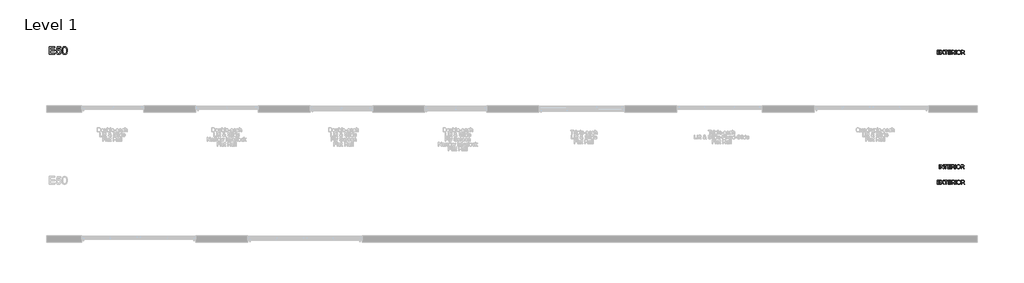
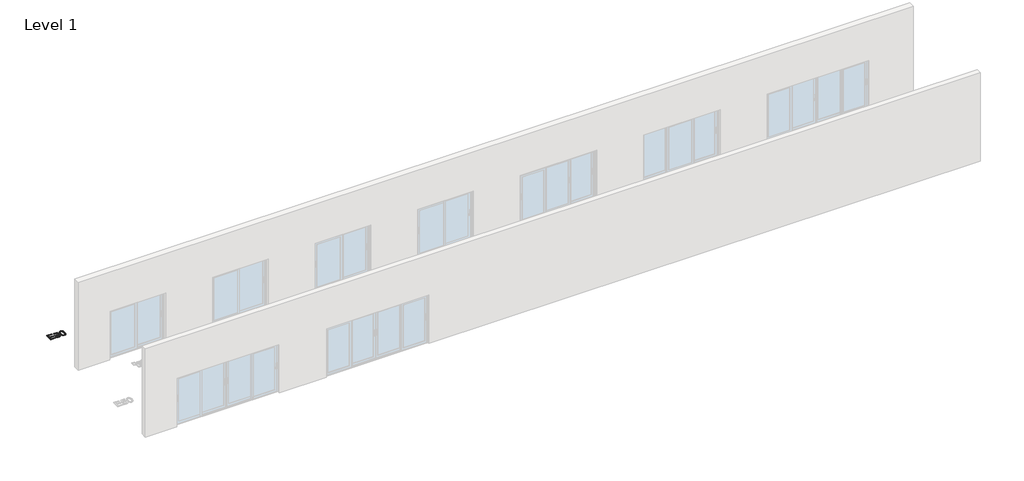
# One storey, part 11 of 11: 4 proxies.
"""IFC4 building model written with IfcOpenShell, lengths in millimetres."""

from ifc_helpers import new_model, si_unit, origin, origin_with_axes, place, context, project, spatial, polyline, outline, extrude, element, save

model = new_model("IFC4")

# Units and contexts
model_context = context("Model", 3, world=origin())
ifc_project = project(units=[si_unit("LENGTHUNIT", "METRE", prefix="MILLI")], contexts=[model_context])

# Site, building, storey
site = spatial("IfcSite", under=ifc_project)
building = spatial("IfcBuilding", under=site)
storey = spatial("IfcBuildingStorey", under=building, Name="Level 1", Elevation=0.0)

# Proxies
placement = place(None, origin())
element("IfcBuildingElementProxy", 1, Name="150mm Arial", ObjectType="150mm Arial", at=placement, inside=storey, context=model_context, shape_type="SweptSolid", body=[
    extrude(outline(polyline([(26115.5972472, 2081.2868462), (26115.5972472, 2231.9713114), (26223.9017066, 2231.9713114), (26223.9017066, 2213.1357532), (26134.4328053, 2213.1357532), (26134.4328053, 2168.4013026), (26219.192817, 2168.4013026), (26219.192817, 2149.5657445), (26134.4328053, 2149.5657445), (26134.4328053, 2100.1224043), (26226.2561513, 2100.1224043), (26226.2561513, 2081.2868462), (26115.5972472, 2081.2868462)])), origin_with_axes(), (0.0, 0.0, 1.0), 10.0),
    extrude(outline(polyline([(26238.0283752, 2081.2868462), (26296.1169422, 2163.3981075), (26247.4461543, 2231.9713114), (26270.0341088, 2231.9713114), (26297.4413174, 2193.3804901), (26306.6751555, 2178.3341165), (26317.4908861, 2193.6380075), (26344.6037892, 2231.9713114), (26367.5228375, 2231.9713114), (26318.8520495, 2163.1773783), (26376.9406166, 2081.2868462), (26354.3526621, 2081.2868462), (26315.6514762, 2135.8805342), (26307.5948605, 2147.2112997), (26298.7289044, 2134.7768883), (26260.9474235, 2081.2868462), (26238.0283752, 2081.2868462)])), origin_with_axes(), (0.0, 0.0, 1.0), 10.0),
    extrude(outline(polyline([(26433.447291, 2081.2868462), (26433.447291, 2213.1357532), (26384.0039509, 2213.1357532), (26384.0039509, 2231.9713114), (26501.7261893, 2231.9713114), (26501.7261893, 2213.1357532), (26452.2828492, 2213.1357532), (26452.2828492, 2081.2868462), (26433.447291, 2081.2868462)])), origin_with_axes(), (0.0, 0.0, 1.0), 10.0),
    extrude(outline(polyline([(26522.9161922, 2081.2868462), (26522.9161922, 2231.9713114), (26631.2206516, 2231.9713114), (26631.2206516, 2213.1357532), (26541.7517504, 2213.1357532), (26541.7517504, 2168.4013026), (26626.5117621, 2168.4013026), (26626.5117621, 2149.5657445), (26541.7517504, 2149.5657445), (26541.7517504, 2100.1224043), (26633.5750964, 2100.1224043), (26633.5750964, 2081.2868462), (26522.9161922, 2081.2868462)])), origin_with_axes(), (0.0, 0.0, 1.0), 10.0),
    extrude(outline(polyline([(26661.8284336, 2081.2868462), (26661.8284336, 2231.9713114), (26726.7596058, 2231.9713114), (26756.9075353, 2227.9062153), (26766.1873586, 2222.2776208), (26773.3886487, 2213.5220293), (26778.0101662, 2202.6649119), (26779.5506721, 2190.7317397), (26776.9984907, 2175.8877012), (26769.3419467, 2163.5820485), (26756.3511138, 2154.5597425), (26737.7960656, 2149.5657445), (26748.5014317, 2141.5091288), (26763.7685345, 2122.1217476), (26788.8948748, 2081.2868462), (26767.005896, 2081.2868462), (26747.3977857, 2112.5200275), (26733.2343289, 2133.1949957), (26723.2831209, 2142.9622626), (26714.3251943, 2146.5491121), (26703.3990991, 2147.2112997), (26680.6639918, 2147.2112997), (26680.6639918, 2081.2868462), (26661.8284336, 2081.2868462)]), holes=[polyline([(26680.6639918, 2166.0468578), (26722.8232684, 2166.0468578), (26744.325971, 2168.7140023), (26756.5396533, 2177.2488646), (26760.7151139, 2190.0327639), (26758.7239526, 2199.2206168), (26752.7504687, 2206.6242419), (26742.4727655, 2211.5078754), (26727.5689462, 2213.1357532), (26680.6639918, 2213.1357532), (26680.6639918, 2166.0468578)])]), origin_with_axes(), (0.0, 0.0, 1.0), 10.0),
    extrude(outline(polyline([(26814.8673436, 2081.2868462), (26814.8673436, 2231.9713114), (26833.7029018, 2231.9713114), (26833.7029018, 2081.2868462), (26814.8673436, 2081.2868462)])), origin_with_axes(), (0.0, 0.0, 1.0), 10.0),
    extrude(outline(polyline([(26864.3106838, 2154.642516), (26869.332273, 2187.9634277), (26875.6092595, 2201.5819593), (26884.3970407, 2213.1725414), (26907.3988625, 2229.0374525), (26936.2316138, 2234.3257562), (26955.996074, 2231.8425527), (26973.7187891, 2224.3929423), (26988.4340689, 2212.5011568), (26999.1762232, 2196.691428), (27005.7429168, 2177.7271112), (27007.9318147, 2156.3715614), (27005.6279537, 2134.730903), (26998.7163707, 2115.4998717), (26987.5787433, 2099.6625518), (26972.5967491, 2088.2030277), (26955.0257853, 2081.250058), (26936.1212492, 2078.9324014), (26916.0532864, 2081.4937798), (26898.2294037, 2089.177915), (26883.5509121, 2101.2904296), (26872.9191225, 2117.1369466), (26866.4627934, 2135.370098), (26864.3106838, 2154.642516)]), holes=[polyline([(26883.1462419, 2154.458575), (26886.9124339, 2130.8865362), (26898.2110096, 2112.9246977), (26915.1933622, 2101.5571441), (26936.0108846, 2097.7679595), (26957.1319097, 2101.5939323), (26974.1418534, 2113.0718505), (26985.3576558, 2131.5855119), (26989.0962565, 2156.5187142), (26987.4959699, 2173.1929656), (26982.6951098, 2187.6047428), (26974.8178366, 2199.3907622), (26963.9883104, 2208.1877404), (26950.923901, 2213.6645836), (26936.3419784, 2215.490198), (26916.0808775, 2211.9723264), (26898.8548031, 2201.4187117), (26887.0733822, 2182.6429344), (26883.1462419, 2154.458575)])]), origin_with_axes(), (0.0, 0.0, 1.0), 10.0),
    extrude(outline(polyline([(27033.8307072, 2081.2868462), (27033.8307072, 2231.9713114), (27098.7618793, 2231.9713114), (27128.9098088, 2227.9062153), (27138.1896321, 2222.2776208), (27145.3909222, 2213.5220293), (27150.0124398, 2202.6649119), (27151.5529456, 2190.7317397), (27149.0007643, 2175.8877012), (27141.3442202, 2163.5820485), (27128.3533873, 2154.5597425), (27109.7983392, 2149.5657445), (27120.5037052, 2141.5091288), (27135.770808, 2122.1217476), (27160.8971483, 2081.2868462), (27139.0081696, 2081.2868462), (27119.4000592, 2112.5200275), (27105.2366024, 2133.1949957), (27095.2853944, 2142.9622626), (27086.3274679, 2146.5491121), (27075.4013726, 2147.2112997), (27052.6662653, 2147.2112997), (27052.6662653, 2081.2868462), (27033.8307072, 2081.2868462)]), holes=[polyline([(27052.6662653, 2166.0468578), (27094.825542, 2166.0468578), (27116.3282446, 2168.7140023), (27128.5419268, 2177.2488646), (27132.7173875, 2190.0327639), (27130.7262262, 2199.2206168), (27124.7527423, 2206.6242419), (27114.475039, 2211.5078754), (27099.5712197, 2213.1357532), (27052.6662653, 2213.1357532), (27052.6662653, 2166.0468578)])]), origin_with_axes(), (0.0, 0.0, 1.0), 10.0),
])
element("IfcBuildingElementProxy", 2, Name="150mm Arial", ObjectType="150mm Arial", at=placement, inside=storey, context=model_context, shape_type="SweptSolid", body=[
    extrude(outline(polyline([(26177.951692, -2318.7131538), (26177.951692, -2168.0286886), (26196.7872501, -2168.0286886), (26196.7872501, -2318.7131538), (26177.951692, -2318.7131538)])), origin_with_axes(), (0.0, 0.0, 1.0), 10.0),
    extrude(outline(polyline([(26234.4583664, -2318.7131538), (26234.4583664, -2168.0286886), (26254.6182998, -2168.0286886), (26333.3450467, -2287.4063961), (26333.3450467, -2168.0286886), (26352.1806049, -2168.0286886), (26352.1806049, -2318.7131538), (26332.0206715, -2318.7131538), (26253.2939246, -2199.2986582), (26253.2939246, -2318.7131538), (26234.4583664, -2318.7131538)])), origin_with_axes(), (0.0, 0.0, 1.0), 10.0),
    extrude(outline(polyline([(26422.8139479, -2318.7131538), (26422.8139479, -2186.8642468), (26373.3706078, -2186.8642468), (26373.3706078, -2168.0286886), (26491.0928463, -2168.0286886), (26491.0928463, -2186.8642468), (26441.6495061, -2186.8642468), (26441.6495061, -2318.7131538), (26422.8139479, -2318.7131538)])), origin_with_axes(), (0.0, 0.0, 1.0), 10.0),
    extrude(outline(polyline([(26512.2828492, -2318.7131538), (26512.2828492, -2168.0286886), (26620.5873086, -2168.0286886), (26620.5873086, -2186.8642468), (26531.1184073, -2186.8642468), (26531.1184073, -2231.5986974), (26615.878419, -2231.5986974), (26615.878419, -2250.4342555), (26531.1184073, -2250.4342555), (26531.1184073, -2299.8775957), (26622.9417533, -2299.8775957), (26622.9417533, -2318.7131538), (26512.2828492, -2318.7131538)])), origin_with_axes(), (0.0, 0.0, 1.0), 10.0),
    extrude(outline(polyline([(26651.1950906, -2318.7131538), (26651.1950906, -2168.0286886), (26716.1262627, -2168.0286886), (26746.2741922, -2172.0937847), (26755.5540155, -2177.7223792), (26762.7553056, -2186.4779707), (26767.3768232, -2197.3350881), (26768.917329, -2209.2682603), (26766.3651477, -2224.1122988), (26758.7086036, -2236.4179515), (26745.7177707, -2245.4402575), (26727.1627226, -2250.4342555), (26737.8680886, -2258.4908712), (26753.1351914, -2277.8782524), (26778.2615317, -2318.7131538), (26756.372553, -2318.7131538), (26736.7644426, -2287.4799725), (26722.6009858, -2266.8050043), (26712.6497778, -2257.0377374), (26703.6918513, -2253.4508879), (26692.765756, -2252.7887003), (26670.0306487, -2252.7887003), (26670.0306487, -2318.7131538), (26651.1950906, -2318.7131538)]), holes=[polyline([(26670.0306487, -2233.9531422), (26712.1899254, -2233.9531422), (26733.692628, -2231.2859977), (26745.9063102, -2222.7511354), (26750.0817709, -2209.9672361), (26748.0906096, -2200.7793832), (26742.1171257, -2193.3757581), (26731.8394224, -2188.4921246), (26716.9356031, -2186.8642468), (26670.0306487, -2186.8642468), (26670.0306487, -2233.9531422)])]), origin_with_axes(), (0.0, 0.0, 1.0), 10.0),
    extrude(outline(polyline([(26804.2340005, -2318.7131538), (26804.2340005, -2168.0286886), (26823.0695587, -2168.0286886), (26823.0695587, -2318.7131538), (26804.2340005, -2318.7131538)])), origin_with_axes(), (0.0, 0.0, 1.0), 10.0),
    extrude(outline(polyline([(26853.6773407, -2245.357484), (26858.6989299, -2212.0365723), (26864.9759165, -2198.4180407), (26873.7636976, -2186.8274586), (26896.7655194, -2170.9625475), (26925.5982708, -2165.6742438), (26945.3627309, -2168.1574473), (26963.0854461, -2175.6070577), (26977.8007259, -2187.4988432), (26988.5428801, -2203.308572), (26995.1095737, -2222.2728888), (26997.2984716, -2243.6284386), (26994.9946106, -2265.269097), (26988.0830276, -2284.5001283), (26976.9454002, -2300.3374482), (26961.963406, -2311.7969723), (26944.3924422, -2318.749942), (26925.4879062, -2321.0675986), (26905.4199433, -2318.5062202), (26887.5960607, -2310.822085), (26872.917569, -2298.7095704), (26862.2857794, -2282.8630534), (26855.8294504, -2264.629902), (26853.6773407, -2245.357484)]), holes=[polyline([(26872.5128989, -2245.541425), (26876.2790908, -2269.1134638), (26887.5776666, -2287.0753023), (26904.5600192, -2298.4428559), (26925.3775416, -2302.2320405), (26946.4985666, -2298.4060677), (26963.5085104, -2286.9281495), (26974.7243127, -2268.4144881), (26978.4629135, -2243.4812858), (26976.8626268, -2226.8070344), (26972.0617667, -2212.3952572), (26964.1844935, -2200.6092378), (26953.3549673, -2191.8122596), (26940.2905579, -2186.3354164), (26925.7086354, -2184.509802), (26905.4475345, -2188.0276736), (26888.22146, -2198.5812883), (26876.4400392, -2217.3570656), (26872.5128989, -2245.541425)])]), origin_with_axes(), (0.0, 0.0, 1.0), 10.0),
    extrude(outline(polyline([(27023.1973641, -2318.7131538), (27023.1973641, -2168.0286886), (27088.1285362, -2168.0286886), (27118.2764657, -2172.0937847), (27127.5562891, -2177.7223792), (27134.7575791, -2186.4779707), (27139.3790967, -2197.3350881), (27140.9196025, -2209.2682603), (27138.3674212, -2224.1122988), (27130.7108772, -2236.4179515), (27117.7200442, -2245.4402575), (27099.1649961, -2250.4342555), (27109.8703621, -2258.4908712), (27125.1374649, -2277.8782524), (27150.2638052, -2318.7131538), (27128.3748265, -2318.7131538), (27108.7667162, -2287.4799725), (27094.6032593, -2266.8050043), (27084.6520514, -2257.0377374), (27075.6941248, -2253.4508879), (27064.7680295, -2252.7887003), (27042.0329222, -2252.7887003), (27042.0329222, -2318.7131538), (27023.1973641, -2318.7131538)]), holes=[polyline([(27042.0329222, -2233.9531422), (27084.1921989, -2233.9531422), (27105.6949015, -2231.2859977), (27117.9085837, -2222.7511354), (27122.0840444, -2209.9672361), (27120.0928831, -2200.7793832), (27114.1193992, -2193.3757581), (27103.8416959, -2188.4921246), (27088.9378766, -2186.8642468), (27042.0329222, -2186.8642468), (27042.0329222, -2233.9531422)])]), origin_with_axes(), (0.0, 0.0, 1.0), 10.0),
])
element("IfcBuildingElementProxy", 3, Name="150mm Arial", ObjectType="150mm Arial", at=placement, inside=storey, context=model_context, shape_type="SweptSolid", body=[
    extrude(outline(polyline([(26115.5972472, -2918.7131538), (26115.5972472, -2768.0286886), (26223.9017066, -2768.0286886), (26223.9017066, -2786.8642468), (26134.4328053, -2786.8642468), (26134.4328053, -2831.5986974), (26219.192817, -2831.5986974), (26219.192817, -2850.4342555), (26134.4328053, -2850.4342555), (26134.4328053, -2899.8775957), (26226.2561513, -2899.8775957), (26226.2561513, -2918.7131538), (26115.5972472, -2918.7131538)])), origin_with_axes(), (0.0, 0.0, 1.0), 10.0),
    extrude(outline(polyline([(26238.0283752, -2918.7131538), (26296.1169422, -2836.6018925), (26247.4461543, -2768.0286886), (26270.0341088, -2768.0286886), (26297.4413174, -2806.6195099), (26306.6751555, -2821.6658835), (26317.4908861, -2806.3619925), (26344.6037892, -2768.0286886), (26367.5228375, -2768.0286886), (26318.8520495, -2836.8226217), (26376.9406166, -2918.7131538), (26354.3526621, -2918.7131538), (26315.6514762, -2864.1194658), (26307.5948605, -2852.7887003), (26298.7289044, -2865.2231117), (26260.9474235, -2918.7131538), (26238.0283752, -2918.7131538)])), origin_with_axes(), (0.0, 0.0, 1.0), 10.0),
    extrude(outline(polyline([(26433.447291, -2918.7131538), (26433.447291, -2786.8642468), (26384.0039509, -2786.8642468), (26384.0039509, -2768.0286886), (26501.7261893, -2768.0286886), (26501.7261893, -2786.8642468), (26452.2828492, -2786.8642468), (26452.2828492, -2918.7131538), (26433.447291, -2918.7131538)])), origin_with_axes(), (0.0, 0.0, 1.0), 10.0),
    extrude(outline(polyline([(26522.9161922, -2918.7131538), (26522.9161922, -2768.0286886), (26631.2206516, -2768.0286886), (26631.2206516, -2786.8642468), (26541.7517504, -2786.8642468), (26541.7517504, -2831.5986974), (26626.5117621, -2831.5986974), (26626.5117621, -2850.4342555), (26541.7517504, -2850.4342555), (26541.7517504, -2899.8775957), (26633.5750964, -2899.8775957), (26633.5750964, -2918.7131538), (26522.9161922, -2918.7131538)])), origin_with_axes(), (0.0, 0.0, 1.0), 10.0),
    extrude(outline(polyline([(26661.8284336, -2918.7131538), (26661.8284336, -2768.0286886), (26726.7596058, -2768.0286886), (26756.9075353, -2772.0937847), (26766.1873586, -2777.7223792), (26773.3886487, -2786.4779707), (26778.0101662, -2797.3350881), (26779.5506721, -2809.2682603), (26776.9984907, -2824.1122988), (26769.3419467, -2836.4179515), (26756.3511138, -2845.4402575), (26737.7960656, -2850.4342555), (26748.5014317, -2858.4908712), (26763.7685345, -2877.8782524), (26788.8948748, -2918.7131538), (26767.005896, -2918.7131538), (26747.3977857, -2887.4799725), (26733.2343289, -2866.8050043), (26723.2831209, -2857.0377374), (26714.3251943, -2853.4508879), (26703.3990991, -2852.7887003), (26680.6639918, -2852.7887003), (26680.6639918, -2918.7131538), (26661.8284336, -2918.7131538)]), holes=[polyline([(26680.6639918, -2833.9531422), (26722.8232684, -2833.9531422), (26744.325971, -2831.2859977), (26756.5396533, -2822.7511354), (26760.7151139, -2809.9672361), (26758.7239526, -2800.7793832), (26752.7504687, -2793.3757581), (26742.4727655, -2788.4921246), (26727.5689462, -2786.8642468), (26680.6639918, -2786.8642468), (26680.6639918, -2833.9531422)])]), origin_with_axes(), (0.0, 0.0, 1.0), 10.0),
    extrude(outline(polyline([(26814.8673436, -2918.7131538), (26814.8673436, -2768.0286886), (26833.7029018, -2768.0286886), (26833.7029018, -2918.7131538), (26814.8673436, -2918.7131538)])), origin_with_axes(), (0.0, 0.0, 1.0), 10.0),
    extrude(outline(polyline([(26864.3106838, -2845.357484), (26869.332273, -2812.0365723), (26875.6092595, -2798.4180407), (26884.3970407, -2786.8274586), (26907.3988625, -2770.9625475), (26936.2316138, -2765.6742438), (26955.996074, -2768.1574473), (26973.7187891, -2775.6070577), (26988.4340689, -2787.4988432), (26999.1762232, -2803.308572), (27005.7429168, -2822.2728888), (27007.9318147, -2843.6284386), (27005.6279537, -2865.269097), (26998.7163707, -2884.5001283), (26987.5787433, -2900.3374482), (26972.5967491, -2911.7969723), (26955.0257853, -2918.749942), (26936.1212492, -2921.0675986), (26916.0532864, -2918.5062202), (26898.2294037, -2910.822085), (26883.5509121, -2898.7095704), (26872.9191225, -2882.8630534), (26866.4627934, -2864.629902), (26864.3106838, -2845.357484)]), holes=[polyline([(26883.1462419, -2845.541425), (26886.9124339, -2869.1134638), (26898.2110096, -2887.0753023), (26915.1933622, -2898.4428559), (26936.0108846, -2902.2320405), (26957.1319097, -2898.4060677), (26974.1418534, -2886.9281495), (26985.3576558, -2868.4144881), (26989.0962565, -2843.4812858), (26987.4959699, -2826.8070344), (26982.6951098, -2812.3952572), (26974.8178366, -2800.6092378), (26963.9883104, -2791.8122596), (26950.923901, -2786.3354164), (26936.3419784, -2784.509802), (26916.0808775, -2788.0276736), (26898.8548031, -2798.5812883), (26887.0733822, -2817.3570656), (26883.1462419, -2845.541425)])]), origin_with_axes(), (0.0, 0.0, 1.0), 10.0),
    extrude(outline(polyline([(27033.8307072, -2918.7131538), (27033.8307072, -2768.0286886), (27098.7618793, -2768.0286886), (27128.9098088, -2772.0937847), (27138.1896321, -2777.7223792), (27145.3909222, -2786.4779707), (27150.0124398, -2797.3350881), (27151.5529456, -2809.2682603), (27149.0007643, -2824.1122988), (27141.3442202, -2836.4179515), (27128.3533873, -2845.4402575), (27109.7983392, -2850.4342555), (27120.5037052, -2858.4908712), (27135.770808, -2877.8782524), (27160.8971483, -2918.7131538), (27139.0081696, -2918.7131538), (27119.4000592, -2887.4799725), (27105.2366024, -2866.8050043), (27095.2853944, -2857.0377374), (27086.3274679, -2853.4508879), (27075.4013726, -2852.7887003), (27052.6662653, -2852.7887003), (27052.6662653, -2918.7131538), (27033.8307072, -2918.7131538)]), holes=[polyline([(27052.6662653, -2833.9531422), (27094.825542, -2833.9531422), (27116.3282446, -2831.2859977), (27128.5419268, -2822.7511354), (27132.7173875, -2809.9672361), (27130.7262262, -2800.7793832), (27124.7527423, -2793.3757581), (27114.475039, -2788.4921246), (27099.5712197, -2786.8642468), (27052.6662653, -2786.8642468), (27052.6662653, -2833.9531422)])]), origin_with_axes(), (0.0, 0.0, 1.0), 10.0),
])
element("IfcBuildingElementProxy", 4, Name="300mm Arial", ObjectType="300mm Arial", at=placement, inside=storey, context=model_context, shape_type="SweptSolid", body=[
    extrude(outline(polyline([(-8067.9216394, 2081.2868462), (-8067.9216394, 2382.6557766), (-7851.3127207, 2382.6557766), (-7851.3127207, 2344.9846603), (-8030.2505231, 2344.9846603), (-8030.2505231, 2255.5157591), (-7860.7304997, 2255.5157591), (-7860.7304997, 2217.8446428), (-8030.2505231, 2217.8446428), (-8030.2505231, 2118.9579625), (-7846.6038311, 2118.9579625), (-7846.6038311, 2081.2868462), (-8067.9216394, 2081.2868462)])), origin_with_axes(), (0.0, 0.0, 1.0), 10.0),
    extrude(outline(polyline([(-7804.2238253, 2161.3379683), (-7766.552709, 2166.0468578), (-7759.6365275, 2143.4313122), (-7747.569998, 2127.2353074), (-7730.408303, 2117.4956315), (-7708.2066245, 2114.2490729), (-7681.2040861, 2118.7648244), (-7660.9705764, 2132.3120789), (-7648.3338298, 2153.3273379), (-7644.121581, 2180.2471029), (-7648.0671154, 2205.5941723), (-7659.9037186, 2224.9815535), (-7679.7233611, 2237.2872062), (-7707.6180134, 2241.3890905), (-7725.8925515, 2239.7520156), (-7740.6906047, 2234.8407909), (-7761.8438194, 2217.8446428), (-7799.5149357, 2222.5535323), (-7766.552709, 2377.9468871), (-7620.5771333, 2377.9468871), (-7620.5771333, 2340.2757708), (-7736.0920798, 2340.2757708), (-7752.2053112, 2257.2815927), (-7725.2947432, 2273.6155532), (-7697.0965883, 2279.0602068), (-7678.750773, 2277.3725481), (-7661.8994784, 2272.3095722), (-7646.5427044, 2263.8712789), (-7632.6804509, 2252.0576683), (-7621.2048319, 2237.5907089), (-7613.0079612, 2221.1923689), (-7608.0898388, 2202.8626485), (-7606.4504647, 2182.6015476), (-7612.3549707, 2144.9304313), (-7619.7356032, 2128.1366182), (-7630.0684888, 2112.7039685), (-7645.7218677, 2096.8988383), (-7663.9872087, 2085.6094596), (-7684.8645119, 2078.8358324), (-7708.3537773, 2076.5779566), (-7745.353509, 2082.3812951), (-7761.0321798, 2089.6354682), (-7774.8300539, 2099.7913105), (-7786.3102714, 2112.3429843), (-7795.0359725, 2126.7846519), (-7804.2238253, 2161.3379683)])), origin_with_axes(), (0.0, 0.0, 1.0), 10.0),
    extrude(outline(polyline([(-7573.4882379, 2229.5432902), (-7570.7199259, 2277.7818168), (-7562.4149899, 2316.2530765), (-7548.6562032, 2345.5456803), (-7529.5263395, 2366.2482396), (-7504.8874429, 2378.5538924), (-7474.6015576, 2382.6557766), (-7451.3882037, 2380.2277554), (-7430.602871, 2372.9436919), (-7413.2204467, 2361.0886946), (-7400.2158182, 2344.9478721), (-7390.3933689, 2324.6591801), (-7382.5574824, 2300.3605743), (-7377.4255286, 2269.5044719), (-7375.7148773, 2229.5432902), (-7378.4555982, 2181.5806751), (-7386.6777608, 2143.2013859), (-7400.3537739, 2113.8811909), (-7419.4560465, 2093.0958582), (-7444.1501255, 2080.707432), (-7474.6015576, 2076.5779566), (-7495.3501021, 2078.3713813), (-7513.7442019, 2083.7516555), (-7529.7838569, 2092.7187792), (-7543.4690671, 2105.2727522), (-7556.6024543, 2127.9664728), (-7565.9834452, 2156.2428027), (-7571.6120397, 2190.1017418), (-7573.4882379, 2229.5432902)]), holes=[polyline([(-7535.8171216, 2229.6168666), (-7531.4025377, 2170.3602742), (-7525.8843077, 2150.0922756), (-7518.1587858, 2136.0644752), (-7498.4403109, 2119.7029235), (-7474.6015576, 2114.2490729), (-7450.7628043, 2119.7213176), (-7431.0443294, 2136.1380516), (-7423.3188075, 2150.1888446), (-7417.8005776, 2170.4522447), (-7413.3859936, 2229.6168666), (-7417.6534248, 2287.5398868), (-7422.9877137, 2307.7412068), (-7430.4557182, 2322.1024002), (-7450.1374049, 2339.2640953), (-7475.043016, 2344.9846603), (-7498.6242519, 2339.944677), (-7517.5701746, 2324.824727), (-7525.5532139, 2309.1897422), (-7531.2553849, 2288.1101038), (-7535.8171216, 2229.6168666)])]), origin_with_axes(), (0.0, 0.0, 1.0), 10.0),
])

save(model, "model.ifc")
